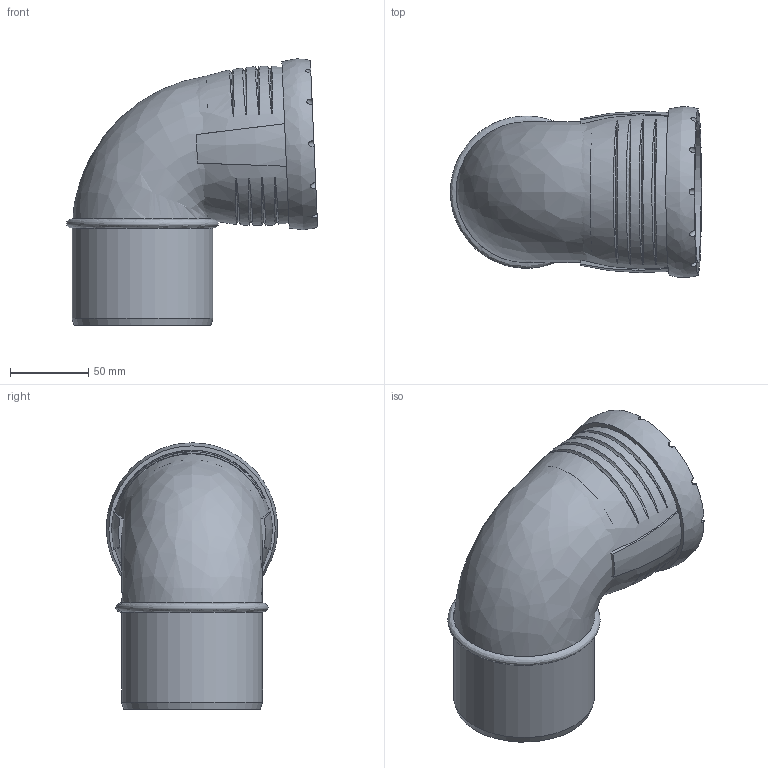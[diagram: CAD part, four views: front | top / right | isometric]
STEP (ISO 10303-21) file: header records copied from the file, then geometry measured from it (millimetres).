
FILE_DESCRIPTION(/* description */ (''),/* implementation_level */ '2;1');
FILE_NAME(/* name */ 'H:\Geberit-Teile\Export\Bogen_TEST\stp\393424.stp',/* time_stamp */ '2017-02-14T10:11:02+01:00',/* author */ ('seihe2'),/* organization */ (''),/* preprocessor_version */ 'ST-DEVELOPER v15.2',/* originating_system */ 'Autodesk Inventor 2014',/* authorisation */ '');
FILE_SCHEMA (('AUTOMOTIVE_DESIGN { 1 0 10303 214 3 1 1 }'));
Length unit declared in the file: millimetre
Products named in the file (1): 393424
Bounding box: 160.71 x 109.47 x 170.39 mm (x, y, z)
Volume: 681922.1 mm3; surface area: 131737.9 mm2
Topology: 2 solids, 2 shells, 56 faces, 136 edges, 95 vertices
Faces by surface type: bspline 24, cylinder 20, plane 10, cone 2
Full cylindrical faces by diameter (mm): 70 x1, 81.6 x1, 90.2 x1, 90.9 x1, 91.2 x1, 100.2 x1
Entity records: 4190 total; most frequent: CARTESIAN_POINT 2943, ORIENTED_EDGE 260, DIRECTION 194, EDGE_CURVE 128, VERTEX_POINT 95, AXIS2_PLACEMENT_3D 95, EDGE_LOOP 78, B_SPLINE_CURVE_WITH_KNOTS 60
